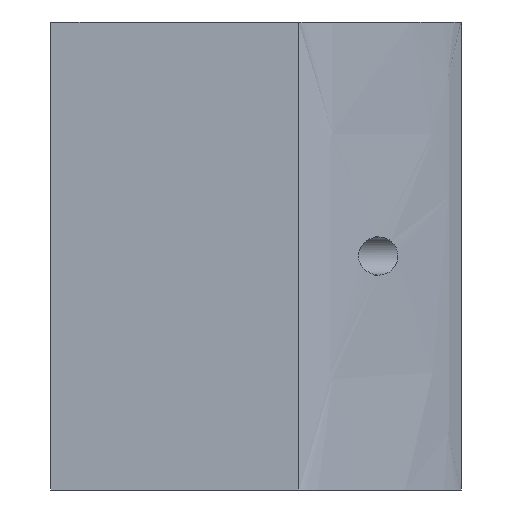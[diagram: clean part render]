
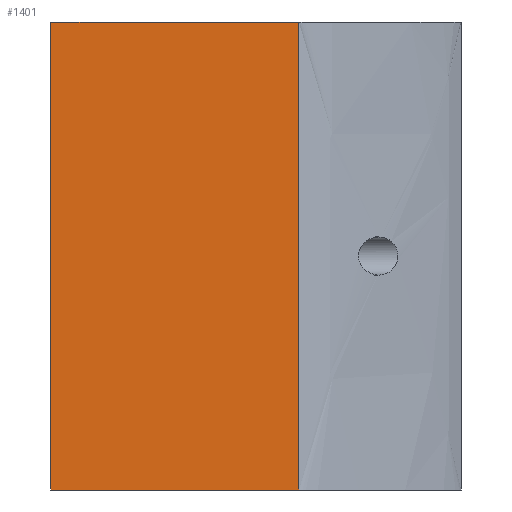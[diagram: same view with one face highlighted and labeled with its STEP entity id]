
A CAD part, front view. The second image highlights one B-rep face of the part: STEP entity #1401.
In plain terms, the highlighted planar face has unit normal (0, -1, 0).
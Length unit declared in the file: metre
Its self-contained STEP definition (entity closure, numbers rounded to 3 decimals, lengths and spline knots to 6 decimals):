
#167=LINE('',#2246,#237);
#169=LINE('',#2281,#239);
#182=LINE('',#2317,#252);
#185=LINE('',#2325,#255);
#237=VECTOR('',#1664,1.);
#239=VECTOR('',#1678,1.);
#252=VECTOR('',#1697,1.);
#255=VECTOR('',#1708,1.);
#354=ORIENTED_EDGE('',*,*,#784,.F.);
#355=ORIENTED_EDGE('',*,*,#788,.T.);
#356=ORIENTED_EDGE('',*,*,#760,.T.);
#357=ORIENTED_EDGE('',*,*,#768,.F.);
#760=EDGE_CURVE('',#980,#982,#167,.T.);
#768=EDGE_CURVE('',#990,#982,#169,.T.);
#784=EDGE_CURVE('',#1002,#990,#182,.T.);
#788=EDGE_CURVE('',#1002,#980,#185,.T.);
#980=VERTEX_POINT('',#2220);
#982=VERTEX_POINT('',#2245);
#990=VERTEX_POINT('',#2280);
#1002=VERTEX_POINT('',#2316);
#1189=EDGE_LOOP('',(#354,#355,#356,#357));
#1287=FACE_BOUND('',#1189,.T.);
#1379=PLANE('',#1515);
#1401=ADVANCED_FACE('',(#1287),#1379,.T.);
#1515=AXIS2_PLACEMENT_3D('',#2324,#1706,#1707);
#1664=DIRECTION('',(0.,0.,1.));
#1678=DIRECTION('',(1.,0.,0.));
#1697=DIRECTION('',(0.,0.,1.));
#1706=DIRECTION('',(0.,-1.,0.));
#1707=DIRECTION('',(0.,0.,1.));
#1708=DIRECTION('',(1.,0.,0.));
#2220=CARTESIAN_POINT('',(-0.191042,-0.02465,-0.0815));
#2245=CARTESIAN_POINT('',(-0.191042,-0.02465,-0.041));
#2246=CARTESIAN_POINT('',(-0.191042,-0.02465,-0.081502));
#2280=CARTESIAN_POINT('',(-0.2125,-0.02465,-0.041));
#2281=CARTESIAN_POINT('',(-0.213,-0.02465,-0.041));
#2316=CARTESIAN_POINT('',(-0.2125,-0.02465,-0.0815));
#2317=CARTESIAN_POINT('',(-0.2125,-0.02465,-0.081502));
#2324=CARTESIAN_POINT('',(-0.213,-0.02465,-0.081502));
#2325=CARTESIAN_POINT('',(-0.213,-0.02465,-0.0815));
